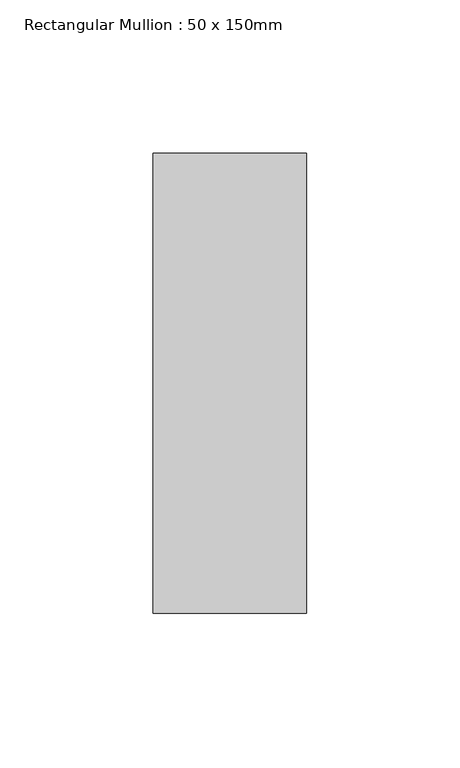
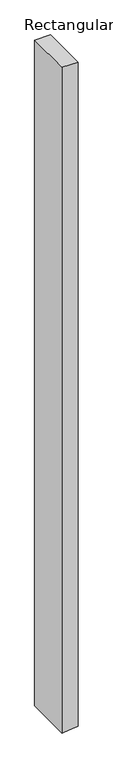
"""IFC4 building model written with IfcOpenShell, lengths in millimetres: member geometry, Rectangular Mullion : 50 x 150mm."""

from ifc_helpers import new_model, si_unit, frame, origin, place, context, project, spatial, polyline, outline, extrude, source, transform, mapped, element, save


def rectangular_mullion_50_x_150mm_71dc6ac1(model_context):
    return source(origin(), model_context, "Body", "SweptSolid", [
        extrude(outline(polyline([(0.0, 25.0), (0.0, -25.0), (-2225.6907062, -25.0), (-2223.6799391, -5.0022633), (-2220.6632195, 25.0), (0.0, 25.0)])), frame((0.0, -75.0, 0.0), z_axis=(0.0, 1.0, 0.0), x_axis=(0.0, 0.0, 1.0)), (0.0, 0.0, 1.0), 150.0),
    ])


if __name__ == "__main__":
    model = new_model("IFC4")
    model_context = context("Model", 3, world=origin())
    ifc_project = project(units=[si_unit("LENGTHUNIT", "METRE", prefix="MILLI")], contexts=[model_context])
    site = spatial("IfcSite", under=ifc_project)
    building = spatial("IfcBuilding", under=site)
    placement = place(None, origin())
    rectangular_mullion_50_x_150mm_shape = rectangular_mullion_50_x_150mm_71dc6ac1(model_context)
    element("IfcMember", 1, ObjectType="Rectangular Mullion : 50 x 150mm", at=placement, inside=building, context=model_context, shape_type="MappedRepresentation", body=[
        mapped(rectangular_mullion_50_x_150mm_shape, transform((0.0, 0.0, 0.0), x_axis=(1.0, 0.0, 0.0), y_axis=(0.0, 1.0, 0.0), z_axis=(0.0, 0.0, 1.0))),
    ])
    save(model, "model.ifc")
